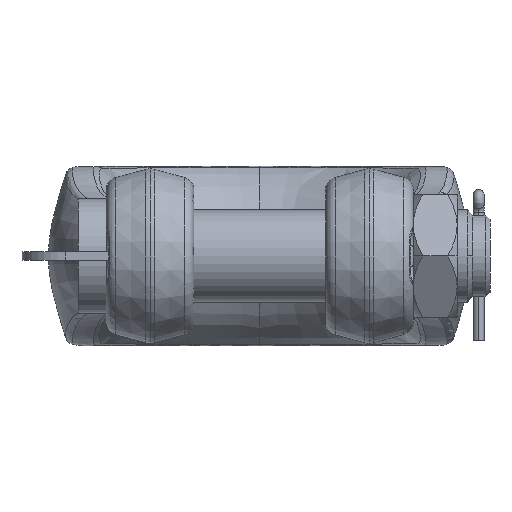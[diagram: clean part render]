
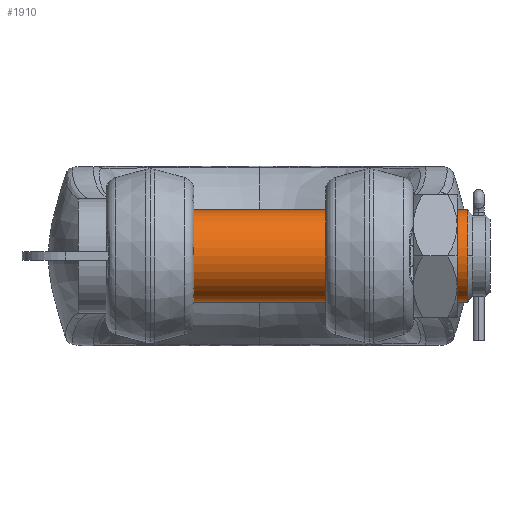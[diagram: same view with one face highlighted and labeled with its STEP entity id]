
A CAD part, front view. The second image highlights one B-rep face of the part: STEP entity #1910.
In plain terms, the highlighted cylindrical face has radius 52.5 mm (diameter 105 mm), a partial arc.
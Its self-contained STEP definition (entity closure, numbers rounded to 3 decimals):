
#1910=ADVANCED_FACE('',(#3850),#3851,.T.);
#3850=FACE_OUTER_BOUND('',#86726,.T.);
#3851=CYLINDRICAL_SURFACE('',#86727,52.5);
#86726=EDGE_LOOP('',(#91699,#91700,#91701,#91702,#91703));
#86727=AXIS2_PLACEMENT_3D('',#91704,#91705,#91706);
#91699=ORIENTED_EDGE('',*,*,#94065,.T.);
#91700=ORIENTED_EDGE('',*,*,#94062,.T.);
#91701=ORIENTED_EDGE('',*,*,#94077,.T.);
#91702=ORIENTED_EDGE('',*,*,#94067,.T.);
#91703=ORIENTED_EDGE('',*,*,#94074,.T.);
#91704=CARTESIAN_POINT('',(-175.0,0.0,0.));
#91705=DIRECTION('',(-1.0,0.0,0.0));
#91706=DIRECTION('',(0.0,0.0,-1.0));
#94062=EDGE_CURVE('',#97282,#97280,#97283,.T.);
#94065=EDGE_CURVE('',#97286,#97282,#97287,.T.);
#94067=EDGE_CURVE('',#97290,#97288,#97291,.T.);
#94074=EDGE_CURVE('',#97288,#97286,#97300,.T.);
#94077=EDGE_CURVE('',#97280,#97290,#97303,.T.);
#97280=VERTEX_POINT('',#139754);
#97282=VERTEX_POINT('',#139757);
#97283=CIRCLE('',#139758,52.5);
#97286=VERTEX_POINT('',#139761);
#97287=LINE('',#139762,#139763);
#97288=VERTEX_POINT('',#139764);
#97290=VERTEX_POINT('',#139766);
#97291=LINE('',#139767,#139768);
#97300=CIRCLE('',#139912,52.5);
#97303=CIRCLE('',#140047,52.5);
#139754=CARTESIAN_POINT('',(237.0,-52.5,0.));
#139757=CARTESIAN_POINT('',(237.0,0.,-52.5));
#139758=AXIS2_PLACEMENT_3D('',#141927,#141928,#141929);
#139761=CARTESIAN_POINT('',(-172.0,0.0,-52.5));
#139762=CARTESIAN_POINT('',(32.5,0.,-52.5));
#139763=VECTOR('',#141933,1.0);
#139764=CARTESIAN_POINT('',(-172.0,0.,52.5));
#139766=CARTESIAN_POINT('',(237.0,0.,52.5));
#139767=CARTESIAN_POINT('',(32.5,0.,52.5));
#139768=VECTOR('',#141937,1.0);
#139912=AXIS2_PLACEMENT_3D('',#141947,#141948,#141949);
#140047=AXIS2_PLACEMENT_3D('',#141950,#141951,#141952);
#141927=CARTESIAN_POINT('',(237.0,0.0,0.));
#141928=DIRECTION('',(-1.0,0.0,0.0));
#141929=DIRECTION('',(0.0,0.0,-1.0));
#141933=DIRECTION('',(1.0,-0.0,-0.0));
#141937=DIRECTION('',(-1.0,0.0,0.0));
#141947=CARTESIAN_POINT('',(-172.0,0.0,0.));
#141948=DIRECTION('',(1.0,0.0,0.0));
#141949=DIRECTION('',(0.0,0.0,-1.0));
#141950=CARTESIAN_POINT('',(237.0,0.0,0.));
#141951=DIRECTION('',(-1.0,0.0,0.0));
#141952=DIRECTION('',(0.0,0.0,-1.0));
